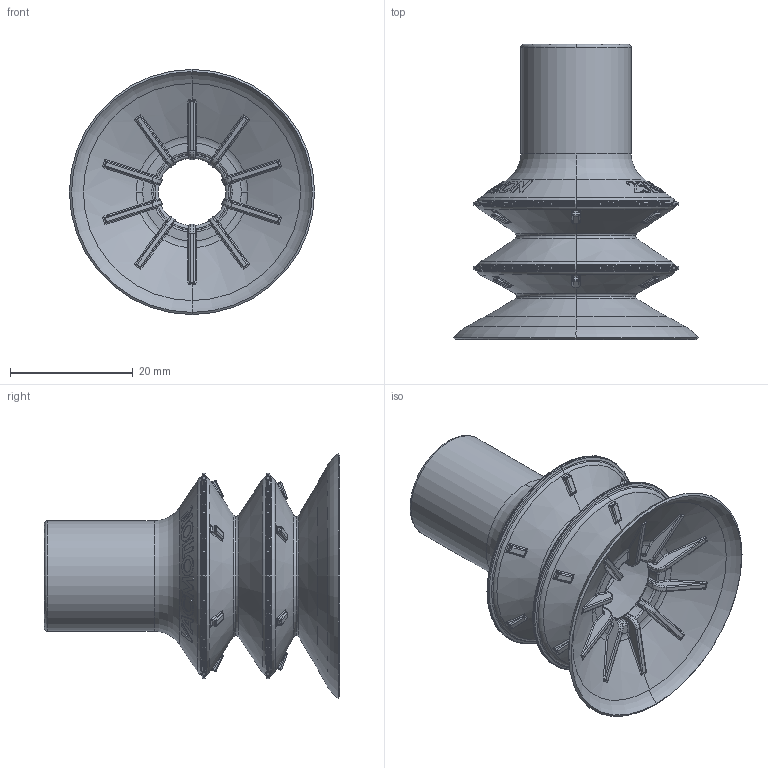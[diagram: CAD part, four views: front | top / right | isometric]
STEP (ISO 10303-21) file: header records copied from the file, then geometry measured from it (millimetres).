
FILE_DESCRIPTION (( 'STEP AP214' ), '1' );
FILE_NAME ('25B.040.007.02.STEP', '2025-11-12T18:16:43', ( '' ), ( '' ), 'SwSTEP 2.0', 'SolidWorks 2025', '' );
FILE_SCHEMA (( 'AUTOMOTIVE_DESIGN' ));
Length unit declared in the file: millimetre
Products named in the file (1): 25B.040.007.02
Bounding box: 40 x 48.15 x 40 mm (x, y, z)
Volume: 9082.6 mm3; surface area: 10499 mm2
Topology: 1 solids, 1 shells, 1082 faces, 2659 edges, 1523 vertices
Faces by surface type: bspline 422, cylinder 280, plane 124, torus 104, sphere 86, cone 66
Full cylindrical faces by diameter (mm): 18 x1
Entity records: 54959 total; most frequent: CARTESIAN_POINT 33643, ORIENTED_EDGE 5124, DIRECTION 3465, EDGE_CURVE 2562, VERTEX_POINT 1523, AXIS2_PLACEMENT_3D 1476, EDGE_LOOP 1125, B_SPLINE_CURVE_WITH_KNOTS 1118
